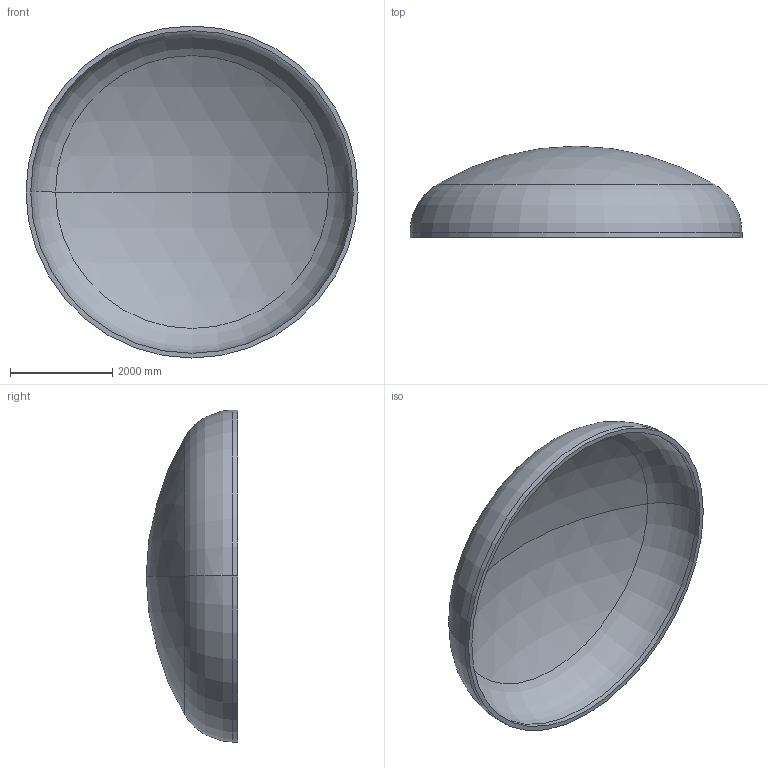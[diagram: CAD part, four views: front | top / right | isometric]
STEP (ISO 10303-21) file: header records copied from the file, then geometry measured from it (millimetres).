
FILE_DESCRIPTION (( 'STEP AP203' ), '1' );
FILE_NAME ('DIN 28013 Korbbogenform_-_Boden DIN 28013 - 6500 x 100 - I - s=92.step', '2016-07-04T10:43:44', ( '' ), ( '' ), 'SwSTEP 2.0', 'SolidWorks 2013', '' );
FILE_SCHEMA (( 'CONFIG_CONTROL_DESIGN' ));
Length unit declared in the file: millimetre
Products named in the file (1): DIN 28013 Korbbogenform_-_Boden DIN 28013 - 6500 x 100 - I - s=92
Bounding box: 6500 x 1788.8 x 6500 mm (x, y, z)
Volume: 4334206139.5 mm3; surface area: 96091645.8 mm2
Topology: 1 solids, 1 shells, 13 faces, 24 edges, 14 vertices
Faces by surface type: torus 4, cylinder 4, sphere 4, plane 1
Entity records: 407 total; most frequent: DIRECTION 72, CARTESIAN_POINT 52, ORIENTED_EDGE 48, AXIS2_PLACEMENT_3D 34, EDGE_CURVE 24, CIRCLE 20, EDGE_LOOP 14, VERTEX_POINT 14
